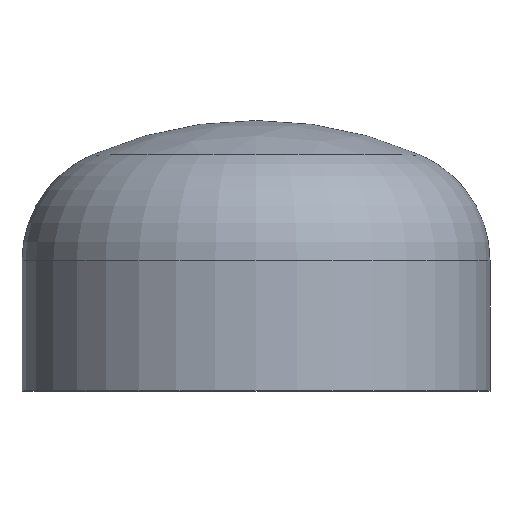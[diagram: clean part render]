
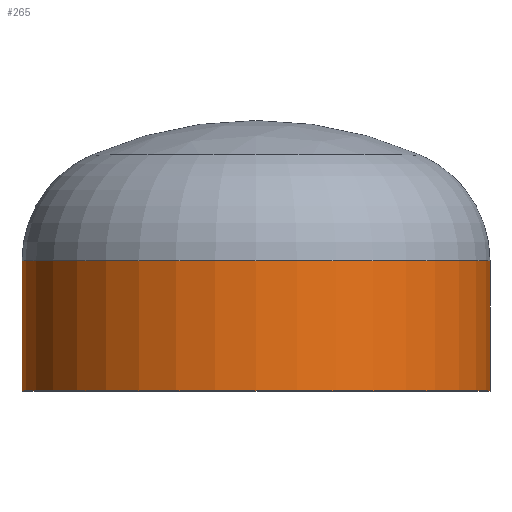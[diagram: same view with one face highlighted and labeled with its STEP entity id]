
A CAD part, top view. The second image highlights one B-rep face of the part: STEP entity #265.
In plain terms, the highlighted cylindrical face has radius 161.95 mm (diameter 323.9 mm), a partial arc.
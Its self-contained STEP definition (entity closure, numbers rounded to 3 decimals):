
#1 = ORIENTED_EDGE ( 'NONE', *, *, #122, .F. ) ;
#14 = ORIENTED_EDGE ( 'NONE', *, *, #129, .F. ) ;
#16 = AXIS2_PLACEMENT_3D ( 'NONE', #150, #361, #166 ) ;
#32 = VERTEX_POINT ( 'NONE', #293 ) ;
#48 = VERTEX_POINT ( 'NONE', #248 ) ;
#59 = AXIS2_PLACEMENT_3D ( 'NONE', #201, #184, #277 ) ;
#74 = VERTEX_POINT ( 'NONE', #241 ) ;
#82 = FACE_OUTER_BOUND ( 'NONE', #146, .T. ) ;
#95 = VERTEX_POINT ( 'NONE', #332 ) ;
#101 = ORIENTED_EDGE ( 'NONE', *, *, #369, .T. ) ;
#103 = AXIS2_PLACEMENT_3D ( 'NONE', #338, #351, #348 ) ;
#118 = ORIENTED_EDGE ( 'NONE', *, *, #124, .T. ) ;
#122 = EDGE_CURVE ( 'NONE', #95, #74, #407, .T. ) ;
#124 = EDGE_CURVE ( 'NONE', #32, #48, #130, .T. ) ;
#129 = EDGE_CURVE ( 'NONE', #74, #48, #342, .T. ) ;
#130 = LINE ( 'NONE', #327, #400 ) ;
#146 = EDGE_LOOP ( 'NONE', ( #101, #118, #14, #1 ) ) ;
#150 = CARTESIAN_POINT ( 'NONE',  ( 0., 90., 0. ) ) ;
#166 = DIRECTION ( 'NONE',  ( 1., 0., 0. ) ) ;
#184 = DIRECTION ( 'NONE',  ( 0., -1., 0. ) ) ;
#201 = CARTESIAN_POINT ( 'NONE',  ( 0., 0., 0. ) ) ;
#224 = VECTOR ( 'NONE', #236, 1000. ) ;
#233 = DIRECTION ( 'NONE',  ( 0., -1., 0. ) ) ;
#236 = DIRECTION ( 'NONE',  ( 0., -1., 0. ) ) ;
#241 = CARTESIAN_POINT ( 'NONE',  ( 161.95, 0., 0. ) ) ;
#242 = CARTESIAN_POINT ( 'NONE',  ( 161.95, 0., 0. ) ) ;
#248 = CARTESIAN_POINT ( 'NONE',  ( -161.95, 0., 0. ) ) ;
#265 = ADVANCED_FACE ( 'NONE', ( #82 ), #310, .T. ) ;
#277 = DIRECTION ( 'NONE',  ( 1., 0., 0. ) ) ;
#293 = CARTESIAN_POINT ( 'NONE',  ( -161.95, 90., 0. ) ) ;
#310 = CYLINDRICAL_SURFACE ( 'NONE', #59, 161.95 ) ;
#327 = CARTESIAN_POINT ( 'NONE',  ( -161.95, 0., 0. ) ) ;
#332 = CARTESIAN_POINT ( 'NONE',  ( 161.95, 90., 0. ) ) ;
#338 = CARTESIAN_POINT ( 'NONE',  ( 0., 0., 0. ) ) ;
#342 = CIRCLE ( 'NONE', #103, 161.95 ) ;
#348 = DIRECTION ( 'NONE',  ( 1., 0., 0. ) ) ;
#351 = DIRECTION ( 'NONE',  ( 0., -1., 0. ) ) ;
#361 = DIRECTION ( 'NONE',  ( 0., -1., 0. ) ) ;
#369 = EDGE_CURVE ( 'NONE', #95, #32, #404, .T. ) ;
#400 = VECTOR ( 'NONE', #233, 1000. ) ;
#404 = CIRCLE ( 'NONE', #16, 161.95 ) ;
#407 = LINE ( 'NONE', #242, #224 ) ;
